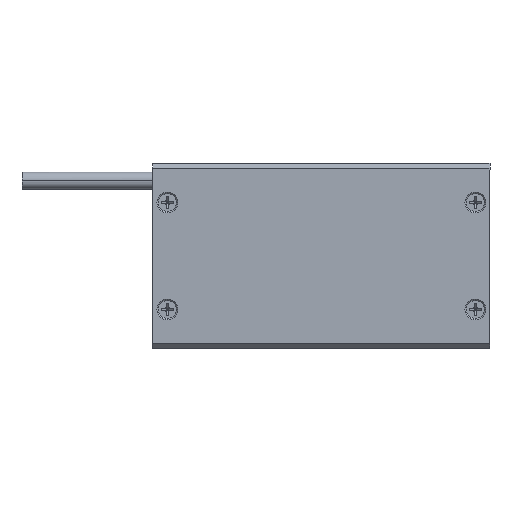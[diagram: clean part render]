
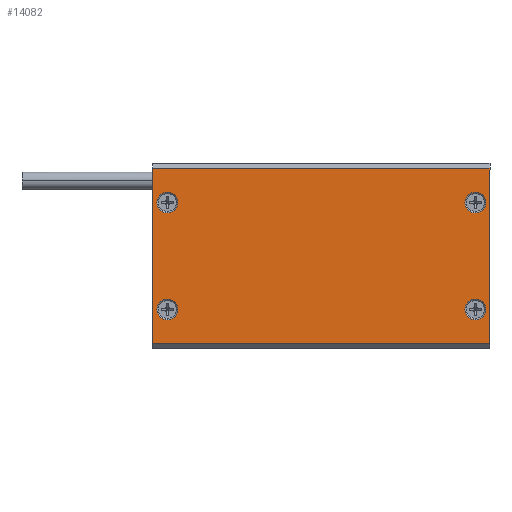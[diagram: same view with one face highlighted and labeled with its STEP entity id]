
A CAD part, front view. The second image highlights one B-rep face of the part: STEP entity #14082.
In plain terms, the highlighted planar face has unit normal (0, -1, 0).
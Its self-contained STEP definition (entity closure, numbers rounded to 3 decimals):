
#1280=CARTESIAN_POINT('',(-75.574,9.1,-30.05));
#1281=DIRECTION('',(0.,-1.,0.));
#1282=DIRECTION('',(0.,0.,1.));
#1283=AXIS2_PLACEMENT_3D('',#1280,#1281,#1282);
#1285=CARTESIAN_POINT('',(-75.574,9.1,-30.05));
#1286=DIRECTION('',(0.,-1.,0.));
#1287=DIRECTION('',(0.,0.,-1.));
#1288=AXIS2_PLACEMENT_3D('',#1285,#1286,#1287);
#1290=CARTESIAN_POINT('',(-75.574,9.1,-8.2));
#1291=DIRECTION('',(0.,-1.,0.));
#1292=DIRECTION('',(0.,0.,-1.));
#1293=AXIS2_PLACEMENT_3D('',#1290,#1291,#1292);
#1295=CARTESIAN_POINT('',(-75.574,9.1,-8.2));
#1296=DIRECTION('',(0.,-1.,0.));
#1297=DIRECTION('',(0.,0.,1.));
#1298=AXIS2_PLACEMENT_3D('',#1295,#1296,#1297);
#1300=CARTESIAN_POINT('',(-12.574,9.1,-30.05));
#1301=DIRECTION('',(0.,-1.,0.));
#1302=DIRECTION('',(0.,0.,1.));
#1303=AXIS2_PLACEMENT_3D('',#1300,#1301,#1302);
#1305=CARTESIAN_POINT('',(-12.574,9.1,-30.05));
#1306=DIRECTION('',(0.,-1.,0.));
#1307=DIRECTION('',(0.,0.,-1.));
#1308=AXIS2_PLACEMENT_3D('',#1305,#1306,#1307);
#1310=CARTESIAN_POINT('',(-12.574,9.1,-8.2));
#1311=DIRECTION('',(0.,-1.,0.));
#1312=DIRECTION('',(0.,0.,-1.));
#1313=AXIS2_PLACEMENT_3D('',#1310,#1311,#1312);
#1315=CARTESIAN_POINT('',(-12.574,9.1,-8.2));
#1316=DIRECTION('',(0.,-1.,0.));
#1317=DIRECTION('',(0.,0.,1.));
#1318=AXIS2_PLACEMENT_3D('',#1315,#1316,#1317);
#1320=DIRECTION('',(-1.,0.,0.));
#1321=VECTOR('',#1320,69.);
#1322=CARTESIAN_POINT('',(-9.574,9.1,-1.2));
#1323=LINE('',#1322,#1321);
#1324=DIRECTION('',(0.,0.,-1.));
#1325=VECTOR('',#1324,35.85);
#1326=CARTESIAN_POINT('',(-9.574,9.1,-1.2));
#1327=LINE('',#1326,#1325);
#1328=DIRECTION('',(-1.,0.,0.));
#1329=VECTOR('',#1328,69.);
#1330=CARTESIAN_POINT('',(-9.574,9.1,-37.05));
#1331=LINE('',#1330,#1329);
#3020=DIRECTION('',(0.,0.,-1.));
#3021=VECTOR('',#3020,35.85);
#3022=CARTESIAN_POINT('',(-78.574,9.1,-1.2));
#3023=LINE('',#3022,#3021);
#9643=CARTESIAN_POINT('',(-12.574,9.1,-27.922));
#9644=CARTESIAN_POINT('',(-12.574,9.1,-32.178));
#9645=VERTEX_POINT('',#9643);
#9646=VERTEX_POINT('',#9644);
#9655=CARTESIAN_POINT('',(-12.574,9.1,-10.328));
#9656=CARTESIAN_POINT('',(-12.574,9.1,-6.073));
#9657=VERTEX_POINT('',#9655);
#9658=VERTEX_POINT('',#9656);
#9659=CARTESIAN_POINT('',(-9.574,9.1,-37.05));
#9661=VERTEX_POINT('',#9659);
#9689=CARTESIAN_POINT('',(-75.574,9.1,-27.922));
#9690=CARTESIAN_POINT('',(-75.574,9.1,-32.178));
#9691=VERTEX_POINT('',#9689);
#9692=VERTEX_POINT('',#9690);
#9693=CARTESIAN_POINT('',(-75.574,9.1,-10.328));
#9694=CARTESIAN_POINT('',(-75.574,9.1,-6.073));
#9695=VERTEX_POINT('',#9693);
#9696=VERTEX_POINT('',#9694);
#9698=CARTESIAN_POINT('',(-78.574,9.1,-37.05));
#9700=VERTEX_POINT('',#9698);
#10283=CARTESIAN_POINT('',(-9.574,9.1,-1.2));
#10285=VERTEX_POINT('',#10283);
#10450=CARTESIAN_POINT('',(-78.574,9.1,-1.2));
#10452=VERTEX_POINT('',#10450);
#14044=CARTESIAN_POINT('',(-80.574,9.1,-56.7));
#14045=DIRECTION('',(0.,-1.,0.));
#14046=DIRECTION('',(1.,0.,0.));
#14047=AXIS2_PLACEMENT_3D('',#14044,#14045,#14046);
#14048=PLANE('',#14047);
#14050=ORIENTED_EDGE('',*,*,#14049,.F.);
#14052=ORIENTED_EDGE('',*,*,#14051,.F.);
#14053=ORIENTED_EDGE('',*,*,#13795,.T.);
#14055=ORIENTED_EDGE('',*,*,#14054,.T.);
#14056=EDGE_LOOP('',(#14050,#14052,#14053,#14055));
#14057=FACE_OUTER_BOUND('',#14056,.F.);
#14059=ORIENTED_EDGE('',*,*,#14058,.T.);
#14061=ORIENTED_EDGE('',*,*,#14060,.T.);
#14062=EDGE_LOOP('',(#14059,#14061));
#14063=FACE_BOUND('',#14062,.F.);
#14065=ORIENTED_EDGE('',*,*,#14064,.T.);
#14067=ORIENTED_EDGE('',*,*,#14066,.T.);
#14068=EDGE_LOOP('',(#14065,#14067));
#14069=FACE_BOUND('',#14068,.F.);
#14071=ORIENTED_EDGE('',*,*,#14070,.T.);
#14073=ORIENTED_EDGE('',*,*,#14072,.T.);
#14074=EDGE_LOOP('',(#14071,#14073));
#14075=FACE_BOUND('',#14074,.F.);
#14077=ORIENTED_EDGE('',*,*,#14076,.T.);
#14079=ORIENTED_EDGE('',*,*,#14078,.T.);
#14080=EDGE_LOOP('',(#14077,#14079));
#14081=FACE_BOUND('',#14080,.F.);
#14082=ADVANCED_FACE('',(#14057,#14063,#14069,#14075,#14081),#14048,.T.);
#1284=CIRCLE('',#1283,2.128);
#1289=CIRCLE('',#1288,2.128);
#1294=CIRCLE('',#1293,2.128);
#1299=CIRCLE('',#1298,2.128);
#1304=CIRCLE('',#1303,2.128);
#1309=CIRCLE('',#1308,2.128);
#1314=CIRCLE('',#1313,2.128);
#1319=CIRCLE('',#1318,2.128);
#13795=EDGE_CURVE('',#10285,#9661,#1327,.T.);
#14049=EDGE_CURVE('',#10452,#9700,#3023,.T.);
#14051=EDGE_CURVE('',#10285,#10452,#1323,.T.);
#14054=EDGE_CURVE('',#9661,#9700,#1331,.T.);
#14058=EDGE_CURVE('',#9695,#9696,#1294,.T.);
#14060=EDGE_CURVE('',#9696,#9695,#1299,.T.);
#14064=EDGE_CURVE('',#9645,#9646,#1304,.T.);
#14066=EDGE_CURVE('',#9646,#9645,#1309,.T.);
#14070=EDGE_CURVE('',#9657,#9658,#1314,.T.);
#14072=EDGE_CURVE('',#9658,#9657,#1319,.T.);
#14076=EDGE_CURVE('',#9691,#9692,#1284,.T.);
#14078=EDGE_CURVE('',#9692,#9691,#1289,.T.);
